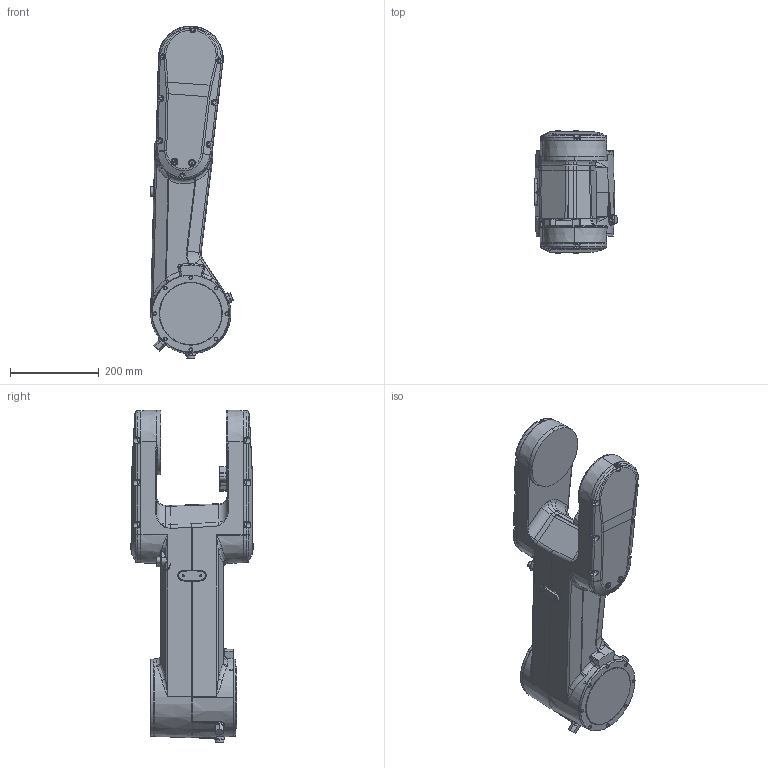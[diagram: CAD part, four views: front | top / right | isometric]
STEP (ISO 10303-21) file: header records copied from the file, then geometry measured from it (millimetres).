
FILE_DESCRIPTION (( 'STEP AP214' ), '1' );
FILE_NAME ('IRB1300 Type A_7&12Kg-1400-Foundry-BTM_OC_00_link2.STEP', '2026-05-19T12:06:46', ( '' ), ( '' ), 'SwSTEP 2.0', 'SolidWorks 2024', '' );
FILE_SCHEMA (( 'AUTOMOTIVE_DESIGN' ));
Products named in the file (1): IRB1300 Type A_7&12Kg-1400-Foundry-BTM_OC_00_link2
Bounding box: 186.51 x 278 x 748.21 mm (x, y, z)
Volume: 15439767 mm3; surface area: 559462.8 mm2
Topology: 1 solids, 1 shells, 1374 faces, 3287 edges, 1963 vertices
Faces by surface type: cylinder 424, bspline 391, plane 264, cone 178, torus 115, sphere 2
Entity records: 60066 total; most frequent: CARTESIAN_POINT 31010, ORIENTED_EDGE 6504, DIRECTION 5532, EDGE_CURVE 3252, AXIS2_PLACEMENT_3D 2269, VERTEX_POINT 1963, EDGE_LOOP 1457, ADVANCED_FACE 1374
